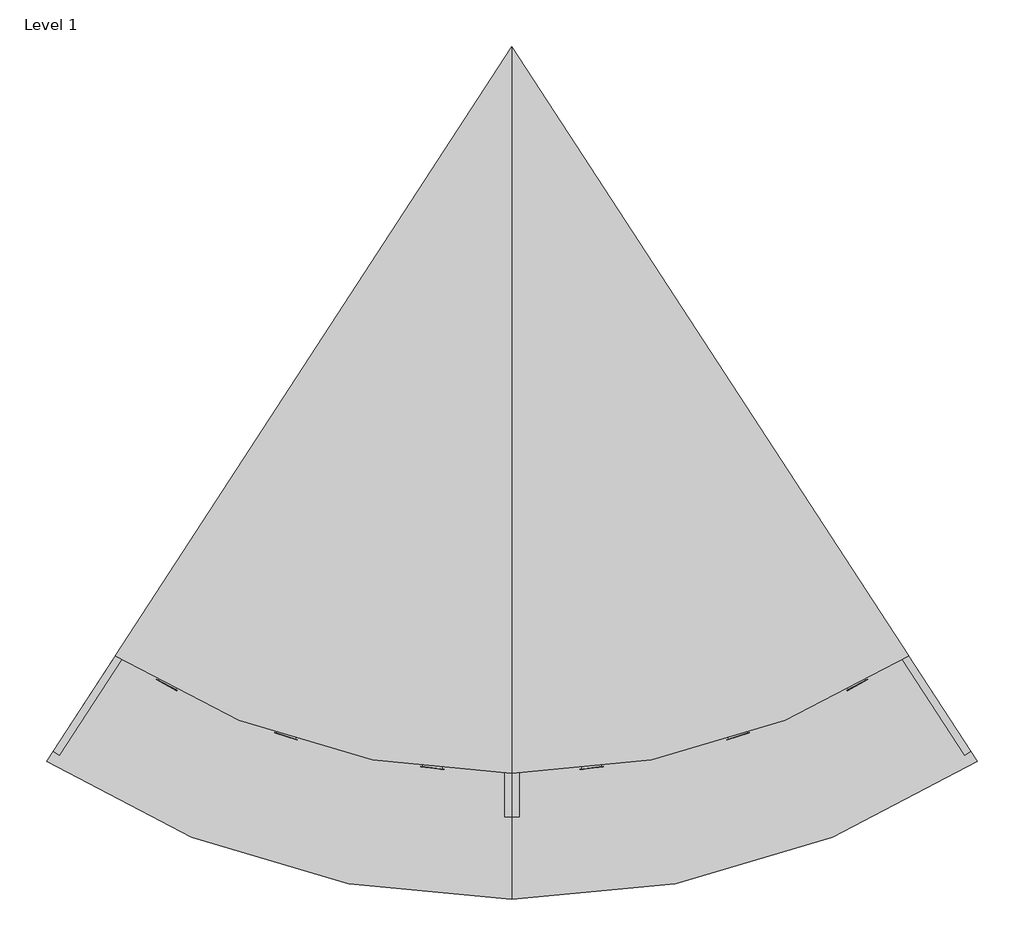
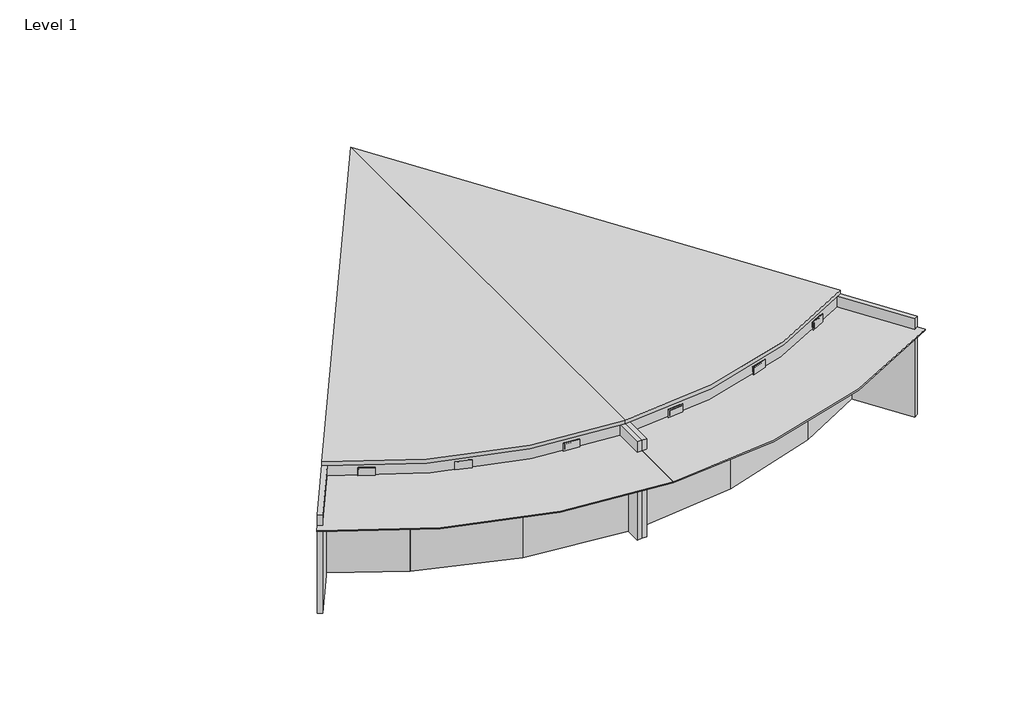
# One storey: 2 proxies.
"""IFC4 building model written with IfcOpenShell, lengths in millimetres."""

from ifc_helpers import new_model, si_unit, origin, place, context, project, spatial, transform, mapped, element, save
from components import generic_models_63aa6d09, generic_models_eace9078

model = new_model("IFC4")

# Units and contexts
model_context = context("Model", 3, world=origin())
ifc_project = project(units=[si_unit("LENGTHUNIT", "METRE", prefix="MILLI")], contexts=[model_context])

# Site, building, storey
site = spatial("IfcSite", under=ifc_project)
building = spatial("IfcBuilding", under=site)
storey = spatial("IfcBuildingStorey", under=building, Name="Level 1", Elevation=0.0)

# Proxies
placement = place(None, origin())
generic_models_shape = generic_models_63aa6d09(model_context)
element("IfcBuildingElementProxy", 1, Name="VIEWLINE^TABLE 5_OUT RADIUS TURRET-LT UNIT ASSEMBLY", ObjectType="VIEWLINE^TABLE 5_OUT RADIUS TURRET-LT UNIT ASSEMBLY", at=placement, inside=storey, context=model_context, shape_type="MappedRepresentation", body=[
    mapped(generic_models_shape, transform((4842.1636364, -675.9183298, 831.85), x_axis=(-1.0, 0.0, 0.0), y_axis=(0.0, 0.0, 1.0), z_axis=(0.0, 1.0, 0.0))),
])
generic_models_2_shape = generic_models_eace9078(model_context)
element("IfcBuildingElementProxy", 2, Name="VIEWLINE^TABLE 5_OUT RADIUS TURRET-RT UNIT ASSEMBLY", ObjectType="VIEWLINE^TABLE 5_OUT RADIUS TURRET-RT UNIT ASSEMBLY", at=placement, inside=storey, context=model_context, shape_type="MappedRepresentation", body=[
    mapped(generic_models_2_shape, transform((4842.1636364, -675.9183298, 831.85), x_axis=(-1.0, 0.0, 0.0), y_axis=(0.0, 0.0, 1.0), z_axis=(0.0, 1.0, 0.0))),
])

save(model, "model.ifc")
